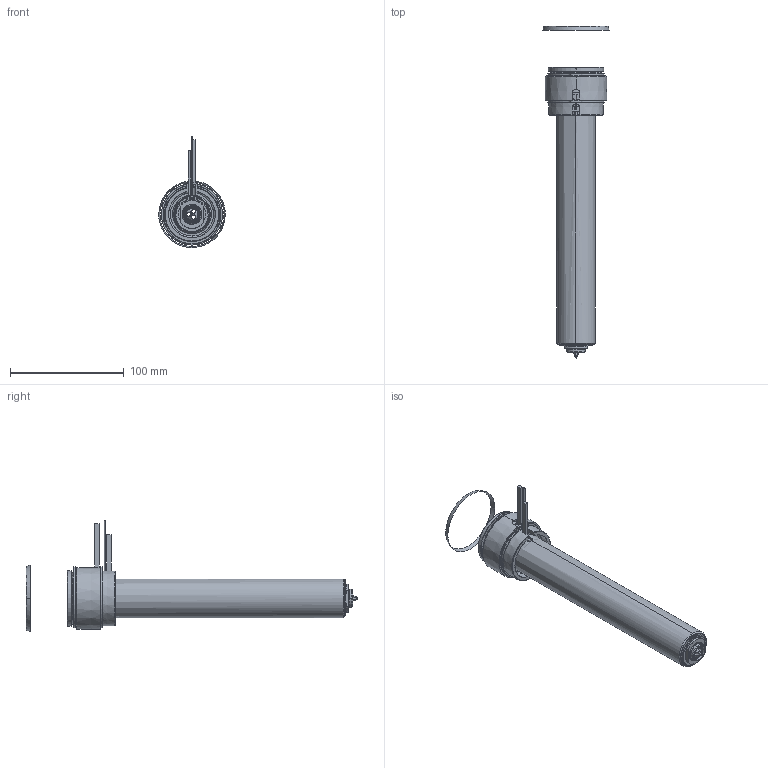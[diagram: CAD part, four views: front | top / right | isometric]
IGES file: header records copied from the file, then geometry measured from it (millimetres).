
Start section: SolidWorks IGES file using analytic representation for surfaces
Global section: file name: C:\Documents and Settings\ws-20\Desktop\TEM\UGEP5505-S-A-1 [Øf-1.36 ØC-13].IGS; native system: SolidWorks 2012; preprocessor: SolidWorks 2012; author: ws-20; date: 120427.082231; units: millimetre
Bounding box: 58.57 x 292.24 x 97.91 mm (x, y, z)
Surface area: 106823.3 mm2 (no closed solid volume)
Topology: 0 solids, 0 shells, 177 faces, 3604 edges, 3604 vertices
Faces by surface type: revolution 114, bspline 63
